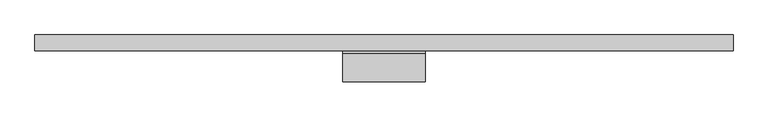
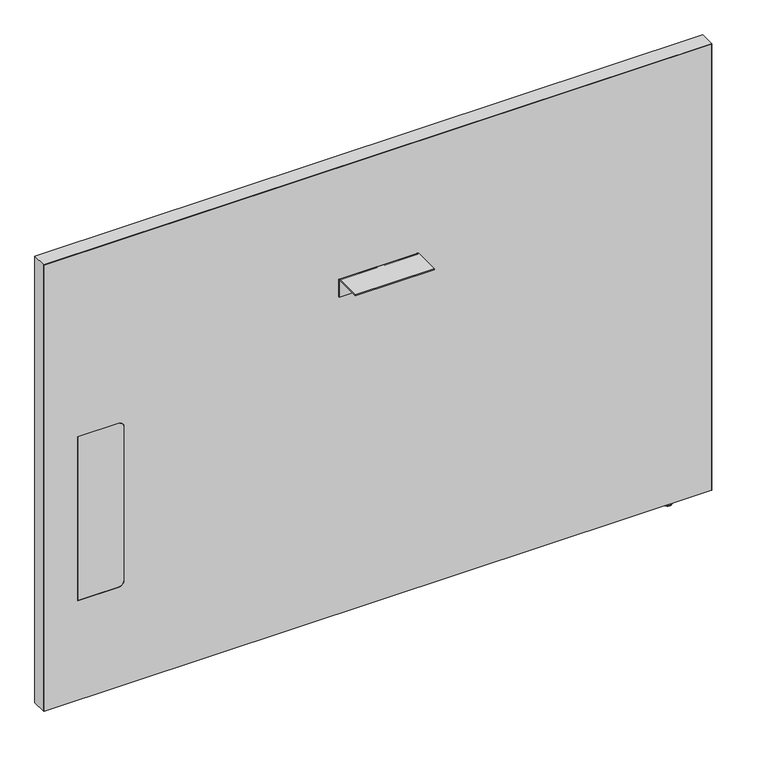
"""IFC4 building model written with IfcOpenShell, lengths in millimetres: furniture geometry, Steelcase - Answer Solution - Boundary Screen - Straight - Single Sided : 36H x 51W."""

from ifc_helpers import new_model, si_unit, point, frame, frame_2d, origin, place, context, project, spatial, polyline, circle_curve, ellipse_curve, trimmed, segment, composite_curve, outline, extrude, source, transform, mapped, element, save
from ifc_brep_helpers import plane_surface, cylinder_surface, revolved_surface, advanced_brep


def furniture_d140e305(model_context):
    return source(origin(), model_context, "Body", "SolidModel", [
        extrude(outline(composite_curve([segment(polyline([(-86.8398151, 696.4680019), (-86.8398151, 698.5), (-34.9450855, 698.5)]), True, "CONTINUOUS"), segment(trimmed(circle_curve(frame_2d((-34.9450855, 693.2447477)), 5.2552523), [point((-34.9450855, 698.5))], [point((-29.6898332, 693.2447477))], False, "CARTESIAN"), True, "CONTINUOUS"), segment(polyline([(-29.6898332, 693.2447477), (-29.6898332, 660.4), (-31.7218162, 660.4), (-31.7218162, 693.0058743)]), True, "CONTINUOUS"), segment(trimmed(circle_curve(frame_2d((-35.1839438, 693.0058743)), 3.4621276), [point((-31.7218162, 693.0058743))], [point((-35.1839438, 696.4680019))], True, "CARTESIAN"), True, "CONTINUOUS"), segment(polyline([(-35.1839438, 696.4680019), (-86.8398151, 696.4680019)]), True, "CONTINUOUS")], self_intersect=False)), frame((-74.9808593, 0.0, 0.0), z_axis=(1.0, 0.0, 0.0), x_axis=(0.0, 1.0, 0.0)), (0.0, 0.0, 1.0), 152.4000969),
        advanced_brep(
        [(571.7286488, -23.7588726, 9.9059849), (571.7286488, -5.9309607, 9.9059849), (571.7286488, -14.8449166, 9.9059849), (571.7286488, -23.7588726, 2.9673238), (571.7286488, -5.9309607, 2.9673238), (571.7286488, -22.7915354, 2.9673238), (571.7286488, -6.8982978, 2.9673238), (571.7286488, -22.7915354, 1.6569081), (571.7286488, -6.8982978, 1.6569081), (571.7286488, -21.1346274, 0.0), (571.7286488, -8.5552059, 0.0), (571.7286488, -14.8449166, 0.0)],
        [
            (0, 1, circle_curve(frame((571.7286488, -14.8449166, 9.9059849), z_axis=(0.0, 0.0, 1.0), x_axis=(0.0, 1.0, 0.0)), 8.913956)),
            (1, 2),
            (2, 0),
            (1, 0, circle_curve(frame((571.7286488, -14.8449166, 9.9059849), z_axis=(0.0, 0.0, 1.0), x_axis=(0.0, 1.0, 0.0)), 8.913956)),
            (3, 4, circle_curve(frame((571.7286488, -14.8449166, 2.9673238), z_axis=(0.0, 0.0, 1.0), x_axis=(0.0, 1.0, 0.0)), 8.913956)),
            (4, 1),
            (0, 3),
            (4, 3, circle_curve(frame((571.7286488, -14.8449166, 2.9673238), z_axis=(0.0, 0.0, 1.0), x_axis=(0.0, 1.0, 0.0)), 8.913956)),
            (5, 6, circle_curve(frame((571.7286488, -14.8449166, 2.9673238), z_axis=(0.0, 0.0, 1.0), x_axis=(0.0, 1.0, 0.0)), 7.9466188)),
            (6, 4),
            (3, 5),
            (6, 5, circle_curve(frame((571.7286488, -14.8449166, 2.9673238), z_axis=(0.0, 0.0, 1.0), x_axis=(0.0, 1.0, 0.0)), 7.9466188)),
            (7, 8, circle_curve(frame((571.7286488, -14.8449166, 1.6569081), z_axis=(0.0, 0.0, 1.0), x_axis=(0.0, 1.0, 0.0)), 7.9466188)),
            (8, 6),
            (5, 7),
            (8, 7, circle_curve(frame((571.7286488, -14.8449166, 1.6569081), z_axis=(0.0, 0.0, 1.0), x_axis=(0.0, 1.0, 0.0)), 7.9466188)),
            (9, 10, circle_curve(frame((571.7286488, -14.8449166, 0.0), z_axis=(0.0, 0.0, 1.0), x_axis=(0.0, 1.0, 0.0)), 6.2897107)),
            (10, 8, circle_curve(frame((571.7286488, -8.5552059, 1.6569081), z_axis=(1.0, 0.0, 0.0), x_axis=(0.0, 1.0, 0.0)), 1.6569081)),
            (7, 9, circle_curve(frame((571.7286488, -21.1346274, 1.6569081), z_axis=(1.0, 0.0, 0.0), x_axis=(0.0, -1.0, 0.0)), 1.6569081)),
            (10, 9, circle_curve(frame((571.7286488, -14.8449166, 0.0), z_axis=(0.0, 0.0, 1.0), x_axis=(0.0, 1.0, 0.0)), 6.2897107)),
            (11, 10),
            (9, 11),
        ],
        [
            plane_surface(frame((571.7286488, -14.8449166, 9.9059849), z_axis=(0.0, 0.0, 1.0), x_axis=(0.0, 1.0, 0.0))),
            cylinder_surface(frame((571.7286488, -14.8449166, 9.9059849), z_axis=(0.0, 0.0, -1.0), x_axis=(0.0, 1.0, 0.0)), 8.913956),
            plane_surface(frame((571.7286488, -14.8449166, 2.9673238), z_axis=(0.0, 0.0, -1.0), x_axis=(0.0, 1.0, 0.0))),
            cylinder_surface(frame((571.7286488, -14.8449166, 9.9059849), z_axis=(0.0, 0.0, -1.0), x_axis=(0.0, 1.0, 0.0)), 7.9466188),
            revolved_surface(trimmed(ellipse_curve(frame((571.7286488, -8.5552059, 1.6569081), z_axis=(-1.0, 0.0, 0.0), x_axis=(0.0, 1.0, 0.0)), 1.6569081, 1.6569081), [point((571.7286488, -6.8982978, 1.6569081))], [point((571.7286488, -8.5552059, 0.0))], True, "CARTESIAN"), (571.7286488, -14.8449166, 9.9059849), (0.0, 0.0, -1.0)),
            plane_surface(frame((571.7286488, -14.8449166, 0.0), z_axis=(0.0, 0.0, -1.0), x_axis=(0.0, 1.0, 0.0))),
        ],
        [
            (0, [[1, 2, 3]]),
            (0, [[4, -3, -2]]),
            (1, [[5, 6, -1, 7]]),
            (1, [[8, -7, -4, -6]]),
            (2, [[9, 10, -5, 11]]),
            (2, [[12, -11, -8, -10]]),
            (3, [[13, 14, -9, 15]]),
            (3, [[16, -15, -12, -14]]),
            (4, [[17, 18, -13, 19]]),
            (4, [[20, -19, -16, -18]]),
            (5, [[21, -17, 22]]),
            (5, [[-22, -20, -21]]),
        ],
    ),
        advanced_brep(
        [(647.8780168, 0.0, 924.342118), (647.8780168, 0.0, 9.9059849), (-645.4902221, 0.0, 9.9059849), (-645.4902221, 0.0, 924.342118), (647.8780168, -29.6898332, 924.342118), (-645.4902221, -29.6898332, 924.342118), (-645.4902221, -29.6898332, 9.9059849), (647.8780168, -29.6898332, 9.9059849), (-501.1463873, -29.6898332, 549.6162029), (-490.9863873, -29.6898332, 539.4562029), (-490.9863873, -29.6898332, 223.9362137), (-501.1463873, -29.6898332, 213.7762137), (-580.800285, -29.6898332, 213.7762137), (-580.800285, -29.6898332, 549.6162029), (-580.800285, -29.0550397, 549.6162029), (-501.1463873, -29.0550397, 549.6162029), (-580.800285, -29.0550397, 213.7762137), (-501.1463873, -29.0550397, 213.7762137), (-490.9863873, -29.0550397, 223.9362137), (-490.9863873, -29.0550397, 539.4562029)],
        [
            (0, 1),
            (1, 2),
            (2, 3),
            (3, 0),
            (4, 5),
            (5, 6),
            (6, 7),
            (7, 4),
            (8, 9, circle_curve(frame((-501.1463873, -29.6898332, 539.4562029), z_axis=(0.0, 1.0, 0.0), x_axis=(0.0, 0.0, 1.0)), 10.16)),
            (9, 10),
            (10, 11, circle_curve(frame((-501.1463873, -29.6898332, 223.9362137), z_axis=(0.0, 1.0, 0.0), x_axis=(0.0, 0.0, 1.0)), 10.16)),
            (11, 12),
            (12, 13),
            (13, 8),
            (0, 4),
            (7, 1),
            (6, 2),
            (5, 3),
            (13, 14),
            (14, 15),
            (15, 8),
            (12, 16),
            (16, 14),
            (11, 17),
            (17, 16),
            (10, 18),
            (18, 17, circle_curve(frame((-501.1463873, -29.0550397, 223.9362137), z_axis=(0.0, 1.0, 0.0), x_axis=(0.0, 0.0, 1.0)), 10.16)),
            (9, 19),
            (19, 18),
            (15, 19, circle_curve(frame((-501.1463873, -29.0550397, 539.4562029), z_axis=(0.0, 1.0, 0.0), x_axis=(0.0, 0.0, 1.0)), 10.16)),
        ],
        [
            plane_surface(frame((647.8780168, 0.0, 924.342118), z_axis=(0.0, 1.0, 0.0), x_axis=(0.0, 0.0, -1.0))),
            plane_surface(frame((647.8780168, -29.6898332, 924.342118), z_axis=(0.0, -1.0, 0.0), x_axis=(0.0, 0.0, 1.0))),
            plane_surface(frame((647.8780168, 0.0, 924.342118), z_axis=(1.0, 0.0, 0.0), x_axis=(0.0, -1.0, 0.0))),
            plane_surface(frame((647.8780168, 0.0, 9.9059849), z_axis=(0.0, 0.0, -1.0), x_axis=(0.0, -1.0, 0.0))),
            plane_surface(frame((-645.4902221, 0.0, 9.9059849), z_axis=(-1.0, 0.0, 0.0), x_axis=(0.0, -1.0, 0.0))),
            plane_surface(frame((-645.4902221, 0.0, 924.342118), z_axis=(0.0, 0.0, 1.0), x_axis=(0.0, -1.0, 0.0))),
            plane_surface(frame((-501.1463873, 0.0, 549.6162029), z_axis=(0.0, 0.0, -1.0), x_axis=(0.0, -1.0, 0.0))),
            plane_surface(frame((-580.800285, 0.0, 549.6162029), z_axis=(1.0, 0.0, 0.0), x_axis=(0.0, -1.0, 0.0))),
            plane_surface(frame((-580.800285, 0.0, 213.7762137), z_axis=(0.0, 0.0, 1.0), x_axis=(0.0, -1.0, 0.0))),
            revolved_surface(polyline([(-501.1463873, -29.6898332, 234.0962137), (-501.1463873, -29.0550397, 234.0962137)]), (-501.1463873, -29.6898332, 223.9362137), (0.0, -1.0, 0.0)),
            plane_surface(frame((-490.9863873, 0.0, 223.9362137), z_axis=(-1.0, 0.0, 0.0), x_axis=(0.0, -1.0, 0.0))),
            revolved_surface(polyline([(-501.1463873, -29.6898332, 549.6162029), (-501.1463873, -29.0550397, 549.6162029)]), (-501.1463873, -29.6898332, 539.4562029), (0.0, -1.0, 0.0)),
            plane_surface(frame((-490.9863873, -29.0550397, 629.172953), z_axis=(0.0, -1.0, 0.0), x_axis=(0.0, 0.0, 1.0))),
        ],
        [
            (0, [[1, 2, 3, 4]]),
            (1, [[5, 6, 7, 8], [9, 10, 11, 12, 13, 14]]),
            (2, [[-1, 15, -8, 16]]),
            (3, [[-2, -16, -7, 17]]),
            (4, [[-3, -17, -6, 18]]),
            (5, [[-4, -18, -5, -15]]),
            (6, [[-14, 19, 20, 21]]),
            (7, [[-13, 22, 23, -19]]),
            (8, [[-12, 24, 25, -22]]),
            (9, [[-11, 26, 27, -24]]),
            (10, [[-10, 28, 29, -26]]),
            (11, [[-9, -21, 30, -28]]),
            (12, [[-20, -23, -25, -27, -29, -30]]),
        ],
    ),
        extrude(outline(composite_curve([segment(polyline([(549.6162029, -501.1463873), (549.6162029, -580.800285), (213.7762137, -580.800285), (213.7762137, -501.1463873)]), True, "CONTINUOUS"), segment(trimmed(circle_curve(frame_2d((223.9362137, -501.1463873)), 10.16), [point((213.7762137, -501.1463873))], [point((223.9362137, -490.9863873))], False, "CARTESIAN"), True, "CONTINUOUS"), segment(polyline([(223.9362137, -490.9863873), (539.4562029, -490.9863873)]), True, "CONTINUOUS"), segment(trimmed(circle_curve(frame_2d((539.4562029, -501.1463873)), 10.16), [point((539.4562029, -490.9863873))], [point((549.6162029, -501.1463873))], False, "CARTESIAN"), True, "CONTINUOUS")], self_intersect=False)), frame((0.0, -29.6898332, 0.0), z_axis=(0.0, 1.0, 0.0), x_axis=(0.0, 0.0, 1.0)), (0.0, 0.0, 1.0), 0.6347935),
        extrude(outline(polyline([(925.322, 648.9191891), (925.322, -646.4808109), (9.9059849, -646.4808109), (9.9059849, -645.4902221), (924.342118, -645.4902221), (924.342118, 647.8780168), (9.9059849, 647.8780168), (9.9059849, 648.9191891), (925.322, 648.9191891)])), frame((0.0, -29.6898332, 0.0), z_axis=(0.0, 1.0, 0.0), x_axis=(0.0, 0.0, 1.0)), (0.0, 0.0, 1.0), 29.6898332),
    ])


if __name__ == "__main__":
    model = new_model("IFC4")
    model_context = context("Model", 3, world=origin())
    ifc_project = project(units=[si_unit("LENGTHUNIT", "METRE", prefix="MILLI")], contexts=[model_context])
    site = spatial("IfcSite", under=ifc_project)
    building = spatial("IfcBuilding", under=site)
    placement = place(None, origin())
    furniture_shape = furniture_d140e305(model_context)
    element("IfcFurniture", 1, ObjectType="Steelcase - Answer Solution - Boundary Screen - Straight - Single Sided : 36H x 51W", at=placement, inside=building, context=model_context, shape_type="MappedRepresentation", body=[
        mapped(furniture_shape, transform((0.0, 0.0, 0.0), x_axis=(1.0, 0.0, 0.0), y_axis=(0.0, 1.0, 0.0), z_axis=(0.0, 0.0, 1.0))),
    ])
    save(model, "model.ifc")
